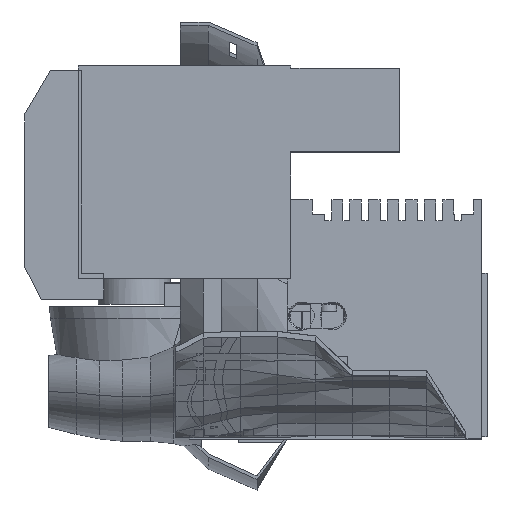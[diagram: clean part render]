
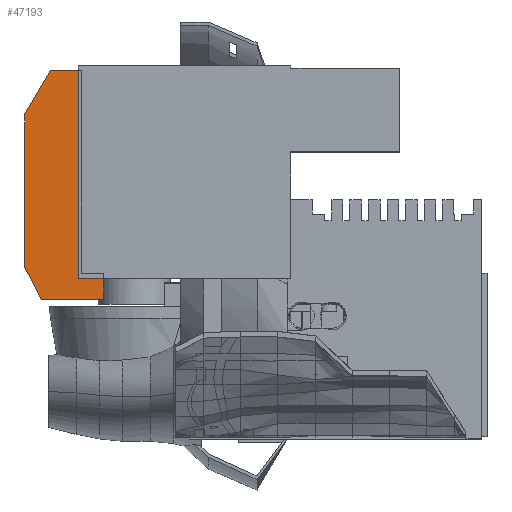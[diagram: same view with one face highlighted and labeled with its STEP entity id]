
A CAD part, front view. The second image highlights one B-rep face of the part: STEP entity #47193.
In plain terms, the highlighted planar face has unit normal (0, -1, 0).
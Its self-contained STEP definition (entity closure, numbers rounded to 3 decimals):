
#8020 = VERTEX_POINT('',#8021);
#8021 = CARTESIAN_POINT('',(-143.,-114.,109.));
#8062 = PLANE('',#8063);
#8063 = AXIS2_PLACEMENT_3D('',#8064,#8065,#8066);
#8064 = CARTESIAN_POINT('',(-143.,-114.,100.2));
#8065 = DIRECTION('',(1.,0.,0.));
#8066 = DIRECTION('',(0.,0.,1.));
#20165 = PLANE('',#20166);
#20166 = AXIS2_PLACEMENT_3D('',#20167,#20168,#20169);
#20167 = CARTESIAN_POINT('',(-177.,-114.,180.));
#20168 = DIRECTION('',(-1.,0.,0.));
#20169 = DIRECTION('',(0.,0.,-1.));
#20193 = PLANE('',#20194);
#20194 = AXIS2_PLACEMENT_3D('',#20195,#20196,#20197);
#20195 = CARTESIAN_POINT('',(-177.,-114.,114.));
#20196 = DIRECTION('',(-0.892,0.,-0.452));
#20197 = DIRECTION('',(0.452,0.,-0.892));
#20221 = PLANE('',#20222);
#20222 = AXIS2_PLACEMENT_3D('',#20223,#20224,#20225);
#20223 = CARTESIAN_POINT('',(-170.,-114.,100.2));
#20224 = DIRECTION('',(0.,0.,-1.));
#20225 = DIRECTION('',(1.,0.,0.));
#20418 = PLANE('',#20419);
#20419 = AXIS2_PLACEMENT_3D('',#20420,#20421,#20422);
#20420 = CARTESIAN_POINT('',(-152.5,-114.,198.7));
#20421 = DIRECTION('',(0.,0.,1.));
#20422 = DIRECTION('',(-1.,0.,0.));
#20444 = PLANE('',#20445);
#20445 = AXIS2_PLACEMENT_3D('',#20446,#20447,#20448);
#20446 = CARTESIAN_POINT('',(-166.,-114.,198.7));
#20447 = DIRECTION('',(-0.862,0.,0.507));
#20448 = DIRECTION('',(-0.507,0.,-0.862));
#20565 = EDGE_CURVE('',#20566,#8020,#20568,.T.);
#20566 = VERTEX_POINT('',#20567);
#20567 = CARTESIAN_POINT('',(-143.,-114.,100.2));
#20568 = SURFACE_CURVE('',#20569,(#20573,#20580),.PCURVE_S1.);
#20569 = LINE('',#20570,#20571);
#20570 = CARTESIAN_POINT('',(-143.,-114.,100.2));
#20571 = VECTOR('',#20572,1.);
#20572 = DIRECTION('',(0.,0.,1.));
#20573 = PCURVE('',#8062,#20574);
#20574 = DEFINITIONAL_REPRESENTATION('',(#20575),#20579);
#20575 = LINE('',#20576,#20577);
#20576 = CARTESIAN_POINT('',(0.,0.));
#20577 = VECTOR('',#20578,1.);
#20578 = DIRECTION('',(1.,0.));
#20579 = ( GEOMETRIC_REPRESENTATION_CONTEXT(2) 
PARAMETRIC_REPRESENTATION_CONTEXT() REPRESENTATION_CONTEXT('2D SPACE',''
  ) );
#20580 = PCURVE('',#20581,#20586);
#20581 = PLANE('',#20582);
#20582 = AXIS2_PLACEMENT_3D('',#20583,#20584,#20585);
#20583 = CARTESIAN_POINT('',(-162.043,-114.,145.565));
#20584 = DIRECTION('',(-0.,-1.,-0.));
#20585 = DIRECTION('',(0.,0.,-1.));
#20586 = DEFINITIONAL_REPRESENTATION('',(#20587),#20591);
#20587 = LINE('',#20588,#20589);
#20588 = CARTESIAN_POINT('',(45.365,19.043));
#20589 = VECTOR('',#20590,1.);
#20590 = DIRECTION('',(-1.,0.));
#20591 = ( GEOMETRIC_REPRESENTATION_CONTEXT(2) 
PARAMETRIC_REPRESENTATION_CONTEXT() REPRESENTATION_CONTEXT('2D SPACE',''
  ) );
#20784 = VERTEX_POINT('',#20785);
#20785 = CARTESIAN_POINT('',(-154.,-114.,198.7));
#20827 = PLANE('',#20828);
#20828 = AXIS2_PLACEMENT_3D('',#20829,#20830,#20831);
#20829 = CARTESIAN_POINT('',(-90.442,-114.,160.348));
#20830 = DIRECTION('',(-0.,-1.,-0.));
#20831 = DIRECTION('',(0.,0.,-1.));
#46580 = VERTEX_POINT('',#46581);
#46581 = CARTESIAN_POINT('',(-177.,-114.,180.));
#46604 = VERTEX_POINT('',#46605);
#46605 = CARTESIAN_POINT('',(-177.,-114.,114.));
#46626 = EDGE_CURVE('',#46580,#46604,#46627,.T.);
#46627 = SURFACE_CURVE('',#46628,(#46632,#46639),.PCURVE_S1.);
#46628 = LINE('',#46629,#46630);
#46629 = CARTESIAN_POINT('',(-177.,-114.,180.));
#46630 = VECTOR('',#46631,1.);
#46631 = DIRECTION('',(0.,0.,-1.));
#46632 = PCURVE('',#20165,#46633);
#46633 = DEFINITIONAL_REPRESENTATION('',(#46634),#46638);
#46634 = LINE('',#46635,#46636);
#46635 = CARTESIAN_POINT('',(0.,-0.));
#46636 = VECTOR('',#46637,1.);
#46637 = DIRECTION('',(1.,0.));
#46638 = ( GEOMETRIC_REPRESENTATION_CONTEXT(2) 
PARAMETRIC_REPRESENTATION_CONTEXT() REPRESENTATION_CONTEXT('2D SPACE',''
  ) );
#46639 = PCURVE('',#20581,#46640);
#46640 = DEFINITIONAL_REPRESENTATION('',(#46641),#46645);
#46641 = LINE('',#46642,#46643);
#46642 = CARTESIAN_POINT('',(-34.435,-14.957));
#46643 = VECTOR('',#46644,1.);
#46644 = DIRECTION('',(1.,0.));
#46645 = ( GEOMETRIC_REPRESENTATION_CONTEXT(2) 
PARAMETRIC_REPRESENTATION_CONTEXT() REPRESENTATION_CONTEXT('2D SPACE',''
  ) );
#46651 = VERTEX_POINT('',#46652);
#46652 = CARTESIAN_POINT('',(-166.,-114.,198.7));
#46675 = EDGE_CURVE('',#46651,#46580,#46676,.T.);
#46676 = SURFACE_CURVE('',#46677,(#46681,#46688),.PCURVE_S1.);
#46677 = LINE('',#46678,#46679);
#46678 = CARTESIAN_POINT('',(-166.,-114.,198.7));
#46679 = VECTOR('',#46680,1.);
#46680 = DIRECTION('',(-0.507,0.,-0.862));
#46681 = PCURVE('',#20444,#46682);
#46682 = DEFINITIONAL_REPRESENTATION('',(#46683),#46687);
#46683 = LINE('',#46684,#46685);
#46684 = CARTESIAN_POINT('',(0.,0.));
#46685 = VECTOR('',#46686,1.);
#46686 = DIRECTION('',(1.,0.));
#46687 = ( GEOMETRIC_REPRESENTATION_CONTEXT(2) 
PARAMETRIC_REPRESENTATION_CONTEXT() REPRESENTATION_CONTEXT('2D SPACE',''
  ) );
#46688 = PCURVE('',#20581,#46689);
#46689 = DEFINITIONAL_REPRESENTATION('',(#46690),#46694);
#46690 = LINE('',#46691,#46692);
#46691 = CARTESIAN_POINT('',(-53.135,-3.957));
#46692 = VECTOR('',#46693,1.);
#46693 = DIRECTION('',(0.862,-0.507));
#46694 = ( GEOMETRIC_REPRESENTATION_CONTEXT(2) 
PARAMETRIC_REPRESENTATION_CONTEXT() REPRESENTATION_CONTEXT('2D SPACE',''
  ) );
#46699 = EDGE_CURVE('',#20784,#46651,#46700,.T.);
#46700 = SURFACE_CURVE('',#46701,(#46705,#46712),.PCURVE_S1.);
#46701 = LINE('',#46702,#46703);
#46702 = CARTESIAN_POINT('',(-152.5,-114.,198.7));
#46703 = VECTOR('',#46704,1.);
#46704 = DIRECTION('',(-1.,0.,0.));
#46705 = PCURVE('',#20418,#46706);
#46706 = DEFINITIONAL_REPRESENTATION('',(#46707),#46711);
#46707 = LINE('',#46708,#46709);
#46708 = CARTESIAN_POINT('',(0.,0.));
#46709 = VECTOR('',#46710,1.);
#46710 = DIRECTION('',(1.,0.));
#46711 = ( GEOMETRIC_REPRESENTATION_CONTEXT(2) 
PARAMETRIC_REPRESENTATION_CONTEXT() REPRESENTATION_CONTEXT('2D SPACE',''
  ) );
#46712 = PCURVE('',#20581,#46713);
#46713 = DEFINITIONAL_REPRESENTATION('',(#46714),#46718);
#46714 = LINE('',#46715,#46716);
#46715 = CARTESIAN_POINT('',(-53.135,9.543));
#46716 = VECTOR('',#46717,1.);
#46717 = DIRECTION('',(0.,-1.));
#46718 = ( GEOMETRIC_REPRESENTATION_CONTEXT(2) 
PARAMETRIC_REPRESENTATION_CONTEXT() REPRESENTATION_CONTEXT('2D SPACE',''
  ) );
#46921 = VERTEX_POINT('',#46922);
#46922 = CARTESIAN_POINT('',(-170.,-114.,100.2));
#46945 = EDGE_CURVE('',#46921,#20566,#46946,.T.);
#46946 = SURFACE_CURVE('',#46947,(#46951,#46958),.PCURVE_S1.);
#46947 = LINE('',#46948,#46949);
#46948 = CARTESIAN_POINT('',(-170.,-114.,100.2));
#46949 = VECTOR('',#46950,1.);
#46950 = DIRECTION('',(1.,0.,0.));
#46951 = PCURVE('',#20221,#46952);
#46952 = DEFINITIONAL_REPRESENTATION('',(#46953),#46957);
#46953 = LINE('',#46954,#46955);
#46954 = CARTESIAN_POINT('',(0.,0.));
#46955 = VECTOR('',#46956,1.);
#46956 = DIRECTION('',(1.,0.));
#46957 = ( GEOMETRIC_REPRESENTATION_CONTEXT(2) 
PARAMETRIC_REPRESENTATION_CONTEXT() REPRESENTATION_CONTEXT('2D SPACE',''
  ) );
#46958 = PCURVE('',#20581,#46959);
#46959 = DEFINITIONAL_REPRESENTATION('',(#46960),#46964);
#46960 = LINE('',#46961,#46962);
#46961 = CARTESIAN_POINT('',(45.365,-7.957));
#46962 = VECTOR('',#46963,1.);
#46963 = DIRECTION('',(0.,1.));
#46964 = ( GEOMETRIC_REPRESENTATION_CONTEXT(2) 
PARAMETRIC_REPRESENTATION_CONTEXT() REPRESENTATION_CONTEXT('2D SPACE',''
  ) );
#46972 = EDGE_CURVE('',#46604,#46921,#46973,.T.);
#46973 = SURFACE_CURVE('',#46974,(#46978,#46985),.PCURVE_S1.);
#46974 = LINE('',#46975,#46976);
#46975 = CARTESIAN_POINT('',(-177.,-114.,114.));
#46976 = VECTOR('',#46977,1.);
#46977 = DIRECTION('',(0.452,0.,-0.892));
#46978 = PCURVE('',#20193,#46979);
#46979 = DEFINITIONAL_REPRESENTATION('',(#46980),#46984);
#46980 = LINE('',#46981,#46982);
#46981 = CARTESIAN_POINT('',(0.,0.));
#46982 = VECTOR('',#46983,1.);
#46983 = DIRECTION('',(1.,0.));
#46984 = ( GEOMETRIC_REPRESENTATION_CONTEXT(2) 
PARAMETRIC_REPRESENTATION_CONTEXT() REPRESENTATION_CONTEXT('2D SPACE',''
  ) );
#46985 = PCURVE('',#20581,#46986);
#46986 = DEFINITIONAL_REPRESENTATION('',(#46987),#46991);
#46987 = LINE('',#46988,#46989);
#46988 = CARTESIAN_POINT('',(31.565,-14.957));
#46989 = VECTOR('',#46990,1.);
#46990 = DIRECTION('',(0.892,0.452));
#46991 = ( GEOMETRIC_REPRESENTATION_CONTEXT(2) 
PARAMETRIC_REPRESENTATION_CONTEXT() REPRESENTATION_CONTEXT('2D SPACE',''
  ) );
#47193 = ADVANCED_FACE('',(#47194),#20581,.T.);
#47194 = FACE_BOUND('',#47195,.T.);
#47195 = EDGE_LOOP('',(#47196,#47197,#47198,#47199,#47200,#47223,#47244,
    #47245));
#47196 = ORIENTED_EDGE('',*,*,#46626,.T.);
#47197 = ORIENTED_EDGE('',*,*,#46972,.T.);
#47198 = ORIENTED_EDGE('',*,*,#46945,.T.);
#47199 = ORIENTED_EDGE('',*,*,#20565,.T.);
#47200 = ORIENTED_EDGE('',*,*,#47201,.F.);
#47201 = EDGE_CURVE('',#47202,#8020,#47204,.T.);
#47202 = VERTEX_POINT('',#47203);
#47203 = CARTESIAN_POINT('',(-154.,-114.,109.));
#47204 = SURFACE_CURVE('',#47205,(#47209,#47216),.PCURVE_S1.);
#47205 = LINE('',#47206,#47207);
#47206 = CARTESIAN_POINT('',(-154.,-114.,109.));
#47207 = VECTOR('',#47208,1.);
#47208 = DIRECTION('',(1.,0.,0.));
#47209 = PCURVE('',#20581,#47210);
#47210 = DEFINITIONAL_REPRESENTATION('',(#47211),#47215);
#47211 = LINE('',#47212,#47213);
#47212 = CARTESIAN_POINT('',(36.565,8.043));
#47213 = VECTOR('',#47214,1.);
#47214 = DIRECTION('',(0.,1.));
#47215 = ( GEOMETRIC_REPRESENTATION_CONTEXT(2) 
PARAMETRIC_REPRESENTATION_CONTEXT() REPRESENTATION_CONTEXT('2D SPACE',''
  ) );
#47216 = PCURVE('',#20827,#47217);
#47217 = DEFINITIONAL_REPRESENTATION('',(#47218),#47222);
#47218 = LINE('',#47219,#47220);
#47219 = CARTESIAN_POINT('',(51.348,-63.558));
#47220 = VECTOR('',#47221,1.);
#47221 = DIRECTION('',(0.,1.));
#47222 = ( GEOMETRIC_REPRESENTATION_CONTEXT(2) 
PARAMETRIC_REPRESENTATION_CONTEXT() REPRESENTATION_CONTEXT('2D SPACE',''
  ) );
#47223 = ORIENTED_EDGE('',*,*,#47224,.T.);
#47224 = EDGE_CURVE('',#47202,#20784,#47225,.T.);
#47225 = SURFACE_CURVE('',#47226,(#47230,#47237),.PCURVE_S1.);
#47226 = LINE('',#47227,#47228);
#47227 = CARTESIAN_POINT('',(-154.,-114.,109.));
#47228 = VECTOR('',#47229,1.);
#47229 = DIRECTION('',(0.,0.,1.));
#47230 = PCURVE('',#20581,#47231);
#47231 = DEFINITIONAL_REPRESENTATION('',(#47232),#47236);
#47232 = LINE('',#47233,#47234);
#47233 = CARTESIAN_POINT('',(36.565,8.043));
#47234 = VECTOR('',#47235,1.);
#47235 = DIRECTION('',(-1.,0.));
#47236 = ( GEOMETRIC_REPRESENTATION_CONTEXT(2) 
PARAMETRIC_REPRESENTATION_CONTEXT() REPRESENTATION_CONTEXT('2D SPACE',''
  ) );
#47237 = PCURVE('',#20827,#47238);
#47238 = DEFINITIONAL_REPRESENTATION('',(#47239),#47243);
#47239 = LINE('',#47240,#47241);
#47240 = CARTESIAN_POINT('',(51.348,-63.558));
#47241 = VECTOR('',#47242,1.);
#47242 = DIRECTION('',(-1.,0.));
#47243 = ( GEOMETRIC_REPRESENTATION_CONTEXT(2) 
PARAMETRIC_REPRESENTATION_CONTEXT() REPRESENTATION_CONTEXT('2D SPACE',''
  ) );
#47244 = ORIENTED_EDGE('',*,*,#46699,.T.);
#47245 = ORIENTED_EDGE('',*,*,#46675,.T.);
